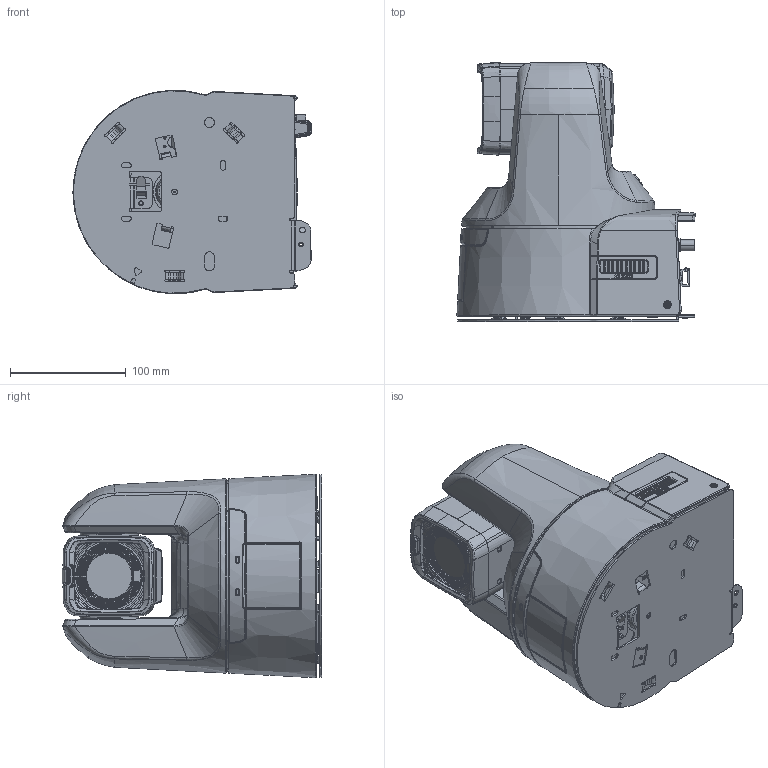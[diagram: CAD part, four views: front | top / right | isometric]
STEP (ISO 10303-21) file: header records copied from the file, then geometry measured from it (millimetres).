
FILE_DESCRIPTION(/* description */ ('AP214 STEP file'),/* implementation_level */ '2;1');
FILE_NAME(/* name */ 'AAA0612B000016354459_001_3D_CR_N350_3D_STEP_CEILING_PLATE.stp',/* time_stamp */ '2025-09-19T13:27:58+09:00',/* author */ (''),/* organization */ (''),/* preprocessor_version */ 'ST-DEVELOPER v20',/* originating_system */ 'Elysium STEP Translator v10.0.4.1',/* authorisation */ '');
FILE_SCHEMA (('AUTOMOTIVE_DESIGN { 1 0 10303 214 3 1 1 }'));
Length unit declared in the file: millimetre
Products named in the file (1): AAA0612B000016354459_001_3D_CR_N350_3D_STEP_CEILING_PLATE
Bounding box: 205.82 x 224.1 x 175.8 mm (x, y, z)
Volume: 4136708.8 mm3; surface area: 355950.7 mm2
Topology: 4 solids, 18 shells, 5047 faces, 12998 edges, 8081 vertices
Faces by surface type: plane 1962, cylinder 1485, bspline 823, cone 267, sphere 232, torus 218, extrusion 60
Entity records: 203979 total; most frequent: CARTESIAN_POINT 83121, ORIENTED_EDGE 25832, STYLED_ITEM 23010, EDGE_CURVE 12916, AXIS2_PLACEMENT_3D 8243, VERTEX_POINT 8077, VECTOR 6436, LINE 6376
